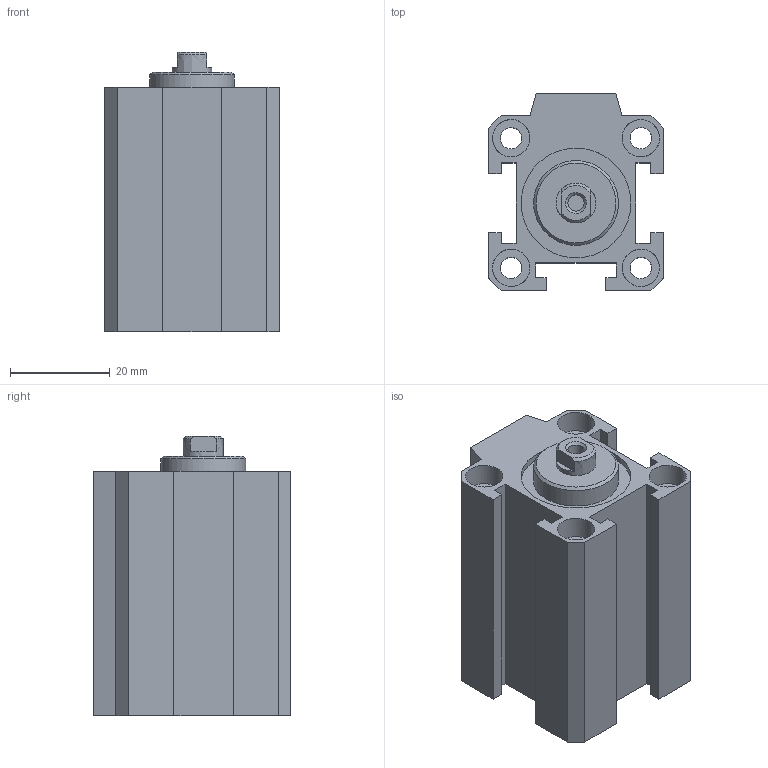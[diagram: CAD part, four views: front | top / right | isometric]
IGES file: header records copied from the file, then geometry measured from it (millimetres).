
Global section: file name: 1511_20_0015; native system: Autodesk Inventor 2014; preprocessor: unknown; author: A. Manieri; date: 20160824.110305; units: millimetre
Bounding box: 35 x 39.5 x 56 mm (x, y, z)
Volume: 42600.2 mm3; surface area: 20630.8 mm2
Topology: 2 solids, 2 shells, 91 faces, 233 edges, 164 vertices
Faces by surface type: bspline 91
